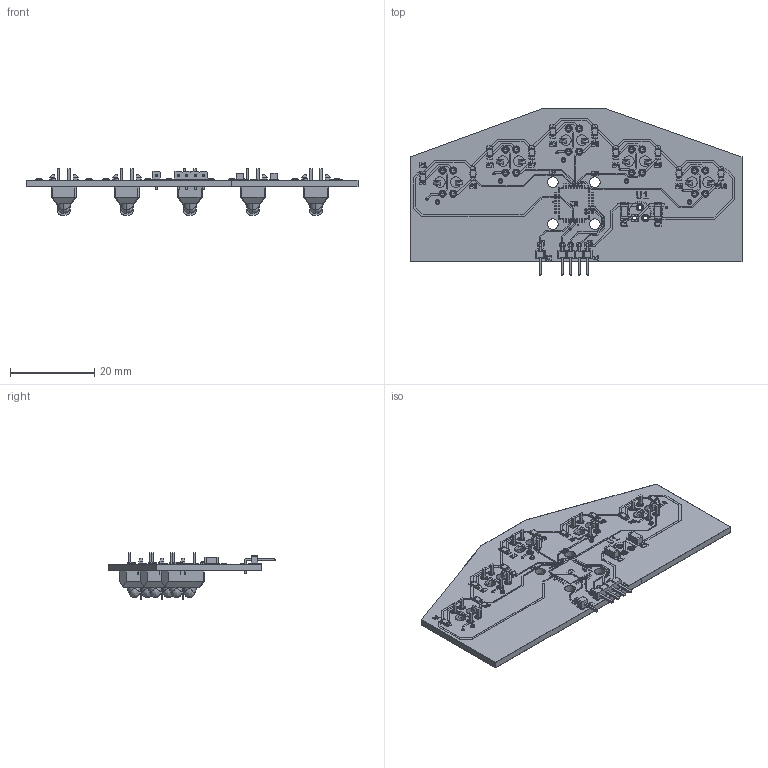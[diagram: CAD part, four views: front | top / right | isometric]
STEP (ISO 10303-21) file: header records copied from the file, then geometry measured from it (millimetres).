
FILE_DESCRIPTION(('KiCad electronic assembly'),'2;1');
FILE_NAME('Sensor_Array_V2.step','2025-09-01T03:41:02',('Pcbnew'),( 'Kicad'),'Open CASCADE STEP processor 7.8','KiCad to STEP converter' ,'Unknown');
FILE_SCHEMA(('AUTOMOTIVE_DESIGN { 1 0 10303 214 1 1 1 1 }'));
Length unit declared in the file: millimetre
Products named in the file (12): Sensor_Array_V2 1; R_0805_2012Metric; C_1206_3216Metric; PinHeader_1x04_P2.00mm_Horizontal; PinHeader_1x01_P2.00mm_Horizontal; TCRT5000; Sensor_Array_V2_copper; Sensor_Array_V2_pad; Sensor_Array_V2_via; Sensor_Array_V2_silkscreen; Sensor_Array_V2_soldermask; Sensor_Array_V2_PCB
Assembly tree (25 placements, depth 2):
  Sensor_Array_V2 1
    R_0805_2012Metric  x10
    C_1206_3216Metric  x2
    PinHeader_1x04_P2.00mm_Horizontal
    PinHeader_1x01_P2.00mm_Horizontal
    TCRT5000  x5
    Sensor_Array_V2_copper
    Sensor_Array_V2_pad
    Sensor_Array_V2_via
    Sensor_Array_V2_silkscreen
    Sensor_Array_V2_soldermask
    Sensor_Array_V2_PCB
Bounding box: 79 x 39.7 x 11 mm (x, y, z)
Volume: 5028.1 mm3; surface area: 17726.7 mm2
Topology: 305 solids, 407 shells, 4133 faces, 11807 edges, 8380 vertices
Faces by surface type: plane 3057, cylinder 1046, bspline 20, cone 10
Full cylindrical faces by diameter (mm): 0.25 x7, 0.275 x28, 0.3 x14, 0.6 x14, 0.75 x25, 0.8 x10, 0.941 x15, 0.95 x100, 0.991 x6, 1 x45, 1.35 x12, 1.499 x8, 1.5 x80, 1.508 x5, 2.5 x14, 3.01 x4
Entity records: 106849 total; most frequent: CARTESIAN_POINT 18908, DIRECTION 17268, ORIENTED_EDGE 15973, EDGE_CURVE 8867, LINE 6524, VECTOR 6524, VERTEX_POINT 6476, AXIS2_PLACEMENT_3D 5372
